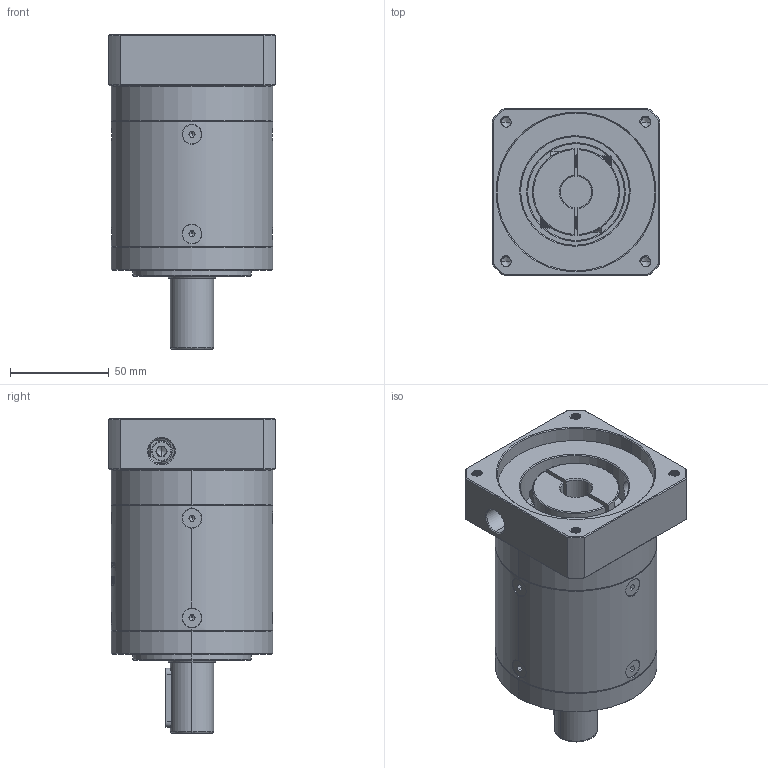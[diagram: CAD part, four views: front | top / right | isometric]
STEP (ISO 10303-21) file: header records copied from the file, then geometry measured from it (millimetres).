
FILE_DESCRIPTION (( 'STEP AP214' ), '1' );
FILE_NAME ('ZE80-D22-L2-16-80-100-M6.step', '2022-05-08T05:54:28', ( '' ), ( 'Microsoft' ), 'SwSTEP 2.0', 'SolidWorks 2016', '' );
FILE_SCHEMA (( 'AUTOMOTIVE_DESIGN' ));
Length unit declared in the file: millimetre
Products named in the file (1): ZE80-D22-L2-16-80-100-M6
Bounding box: 85 x 85 x 159.5 mm (x, y, z)
Volume: 615398.6 mm3; surface area: 90768.9 mm2
Topology: 13 solids, 13 shells, 2063 faces, 5372 edges, 3398 vertices
Faces by surface type: plane 891, cylinder 500, bspline 332, cone 323, torus 17
Entity records: 118383 total; most frequent: CARTESIAN_POINT 49472, ORIENTED_EDGE 10668, DIRECTION 8191, EDGE_CURVE 5334, VERTEX_POINT 3398, LINE 2857, VECTOR 2857, AXIS2_PLACEMENT_3D 2667
